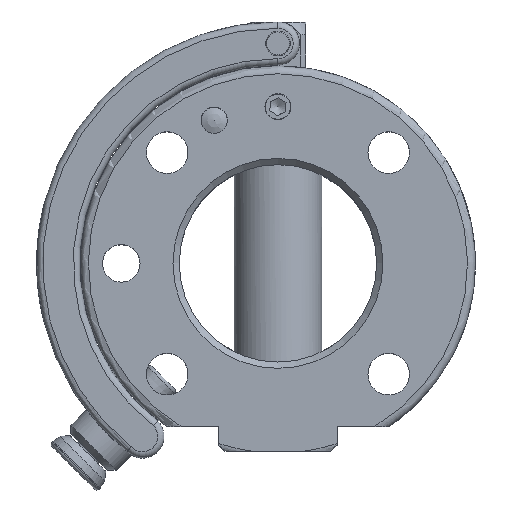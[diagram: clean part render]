
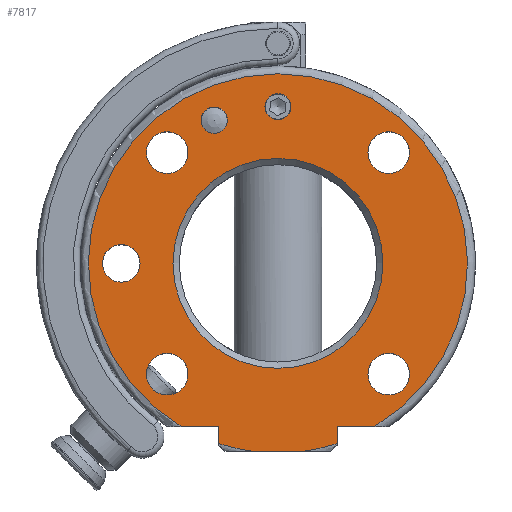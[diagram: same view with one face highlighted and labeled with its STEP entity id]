
A CAD part, top view. The second image highlights one B-rep face of the part: STEP entity #7817.
In plain terms, the highlighted planar face has unit normal (0, 0, 1).
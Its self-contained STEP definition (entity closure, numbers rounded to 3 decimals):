
#676=FACE_BOUND('',#1467,.T.);
#677=FACE_BOUND('',#1468,.T.);
#678=FACE_BOUND('',#1469,.T.);
#679=FACE_BOUND('',#1470,.T.);
#680=FACE_BOUND('',#1471,.T.);
#681=FACE_BOUND('',#1472,.T.);
#682=FACE_BOUND('',#1473,.T.);
#683=FACE_BOUND('',#1474,.T.);
#776=PLANE('',#8393);
#1003=FACE_OUTER_BOUND('',#1466,.T.);
#1466=EDGE_LOOP('',(#5597,#5598,#5599,#5600,#5601,#5602,#5603,#5604));
#1467=EDGE_LOOP('',(#5605));
#1468=EDGE_LOOP('',(#5606));
#1469=EDGE_LOOP('',(#5607));
#1470=EDGE_LOOP('',(#5608));
#1471=EDGE_LOOP('',(#5609));
#1472=EDGE_LOOP('',(#5610));
#1473=EDGE_LOOP('',(#5611));
#1474=EDGE_LOOP('',(#5612));
#1966=LINE('',#12044,#2483);
#1967=LINE('',#12048,#2484);
#1968=LINE('',#12050,#2485);
#1969=LINE('',#12054,#2486);
#1970=LINE('',#12055,#2487);
#2483=VECTOR('',#9268,10.);
#2484=VECTOR('',#9271,10.);
#2485=VECTOR('',#9272,10.);
#2486=VECTOR('',#9275,10.);
#2487=VECTOR('',#9276,10.);
#3003=CIRCLE('',#8385,30.25);
#3004=CIRCLE('',#8387,16.75);
#3008=CIRCLE('',#8394,30.25);
#3009=CIRCLE('',#8395,30.25);
#3010=CIRCLE('',#8396,2.1);
#3011=CIRCLE('',#8397,3.);
#3012=CIRCLE('',#8398,3.324);
#3013=CIRCLE('',#8399,3.324);
#3014=CIRCLE('',#8400,3.324);
#3015=CIRCLE('',#8401,3.324);
#3016=CIRCLE('',#8402,2.067);
#3323=VERTEX_POINT('',#11930);
#3324=VERTEX_POINT('',#11939);
#3326=VERTEX_POINT('',#11953);
#3334=VERTEX_POINT('',#12043);
#3335=VERTEX_POINT('',#12045);
#3336=VERTEX_POINT('',#12047);
#3337=VERTEX_POINT('',#12049);
#3338=VERTEX_POINT('',#12051);
#3339=VERTEX_POINT('',#12053);
#3340=VERTEX_POINT('',#12056);
#3341=VERTEX_POINT('',#12058);
#3342=VERTEX_POINT('',#12060);
#3343=VERTEX_POINT('',#12062);
#3344=VERTEX_POINT('',#12064);
#3345=VERTEX_POINT('',#12066);
#3346=VERTEX_POINT('',#12068);
#4182=EDGE_CURVE('',#3323,#3324,#3003,.T.);
#4185=EDGE_CURVE('',#3326,#3326,#3004,.T.);
#4196=EDGE_CURVE('',#3323,#3334,#1966,.T.);
#4197=EDGE_CURVE('',#3335,#3334,#3008,.T.);
#4198=EDGE_CURVE('',#3335,#3336,#1967,.T.);
#4199=EDGE_CURVE('',#3336,#3337,#1968,.T.);
#4200=EDGE_CURVE('',#3338,#3337,#3009,.T.);
#4201=EDGE_CURVE('',#3338,#3339,#1969,.T.);
#4202=EDGE_CURVE('',#3339,#3324,#1970,.T.);
#4203=EDGE_CURVE('',#3340,#3340,#3010,.T.);
#4204=EDGE_CURVE('',#3341,#3341,#3011,.T.);
#4205=EDGE_CURVE('',#3342,#3342,#3012,.T.);
#4206=EDGE_CURVE('',#3343,#3343,#3013,.T.);
#4207=EDGE_CURVE('',#3344,#3344,#3014,.T.);
#4208=EDGE_CURVE('',#3345,#3345,#3015,.T.);
#4209=EDGE_CURVE('',#3346,#3346,#3016,.T.);
#5597=ORIENTED_EDGE('',*,*,#4196,.T.);
#5598=ORIENTED_EDGE('',*,*,#4197,.F.);
#5599=ORIENTED_EDGE('',*,*,#4198,.T.);
#5600=ORIENTED_EDGE('',*,*,#4199,.T.);
#5601=ORIENTED_EDGE('',*,*,#4200,.F.);
#5602=ORIENTED_EDGE('',*,*,#4201,.T.);
#5603=ORIENTED_EDGE('',*,*,#4202,.T.);
#5604=ORIENTED_EDGE('',*,*,#4182,.F.);
#5605=ORIENTED_EDGE('',*,*,#4203,.T.);
#5606=ORIENTED_EDGE('',*,*,#4204,.T.);
#5607=ORIENTED_EDGE('',*,*,#4205,.T.);
#5608=ORIENTED_EDGE('',*,*,#4206,.T.);
#5609=ORIENTED_EDGE('',*,*,#4207,.T.);
#5610=ORIENTED_EDGE('',*,*,#4208,.T.);
#5611=ORIENTED_EDGE('',*,*,#4185,.F.);
#5612=ORIENTED_EDGE('',*,*,#4209,.T.);
#7817=ADVANCED_FACE('',(#1003,#676,#677,#678,#679,#680,#681,#682,#683),
#776,.T.);
#8385=AXIS2_PLACEMENT_3D('',#11940,#9247,#9248);
#8387=AXIS2_PLACEMENT_3D('',#11954,#9251,#9252);
#8393=AXIS2_PLACEMENT_3D('',#12042,#9266,#9267);
#8394=AXIS2_PLACEMENT_3D('',#12046,#9269,#9270);
#8395=AXIS2_PLACEMENT_3D('',#12052,#9273,#9274);
#8396=AXIS2_PLACEMENT_3D('',#12057,#9277,#9278);
#8397=AXIS2_PLACEMENT_3D('',#12059,#9279,#9280);
#8398=AXIS2_PLACEMENT_3D('',#12061,#9281,#9282);
#8399=AXIS2_PLACEMENT_3D('',#12063,#9283,#9284);
#8400=AXIS2_PLACEMENT_3D('',#12065,#9285,#9286);
#8401=AXIS2_PLACEMENT_3D('',#12067,#9287,#9288);
#8402=AXIS2_PLACEMENT_3D('',#12069,#9289,#9290);
#9247=DIRECTION('center_axis',(0.,0.,-1.));
#9248=DIRECTION('ref_axis',(-1.,0.,0.));
#9251=DIRECTION('center_axis',(0.,0.,1.));
#9252=DIRECTION('ref_axis',(-1.,0.,0.));
#9266=DIRECTION('center_axis',(0.,0.,1.));
#9267=DIRECTION('ref_axis',(1.,0.,0.));
#9268=DIRECTION('',(1.,0.,0.));
#9269=DIRECTION('center_axis',(0.,0.,-1.));
#9270=DIRECTION('ref_axis',(-1.,0.,0.));
#9271=DIRECTION('',(0.,1.,0.));
#9272=DIRECTION('',(1.,0.,0.));
#9273=DIRECTION('center_axis',(0.,0.,-1.));
#9274=DIRECTION('ref_axis',(-1.,0.,0.));
#9275=DIRECTION('',(1.,0.,0.));
#9276=DIRECTION('',(0.,-1.,0.));
#9277=DIRECTION('center_axis',(0.,0.,-1.));
#9278=DIRECTION('ref_axis',(-1.,0.,0.));
#9279=DIRECTION('center_axis',(0.,0.,-1.));
#9280=DIRECTION('ref_axis',(1.,0.,0.));
#9281=DIRECTION('center_axis',(0.,0.,-1.));
#9282=DIRECTION('ref_axis',(-1.,0.,0.));
#9283=DIRECTION('center_axis',(0.,0.,-1.));
#9284=DIRECTION('ref_axis',(-1.,0.,0.));
#9285=DIRECTION('center_axis',(0.,0.,-1.));
#9286=DIRECTION('ref_axis',(-1.,0.,0.));
#9287=DIRECTION('center_axis',(0.,0.,-1.));
#9288=DIRECTION('ref_axis',(-1.,0.,0.));
#9289=DIRECTION('center_axis',(0.,0.,-1.));
#9290=DIRECTION('ref_axis',(1.,0.,0.));
#11930=CARTESIAN_POINT('',(-4.25,-29.95,0.));
#11939=CARTESIAN_POINT('',(-9.45,-28.736,0.));
#11940=CARTESIAN_POINT('Origin',(0.,0.,0.));
#11953=CARTESIAN_POINT('',(16.75,0.,0.));
#11954=CARTESIAN_POINT('Origin',(0.,0.,0.));
#12042=CARTESIAN_POINT('Origin',(0.,0.,
0.));
#12043=CARTESIAN_POINT('',(4.25,-29.95,0.));
#12044=CARTESIAN_POINT('',(-4.225,-29.95,0.));
#12045=CARTESIAN_POINT('',(9.45,-28.736,0.));
#12046=CARTESIAN_POINT('Origin',(0.,0.,0.));
#12047=CARTESIAN_POINT('',(9.45,-26.,0.));
#12048=CARTESIAN_POINT('',(9.45,-14.475,0.));
#12049=CARTESIAN_POINT('',(15.462,-26.,0.));
#12050=CARTESIAN_POINT('',(4.725,-26.,0.));
#12051=CARTESIAN_POINT('',(-15.462,-26.,0.));
#12052=CARTESIAN_POINT('Origin',(0.,0.,0.));
#12053=CARTESIAN_POINT('',(-9.45,-26.,0.));
#12054=CARTESIAN_POINT('',(-8.892,-26.,0.));
#12055=CARTESIAN_POINT('',(-9.45,-13.,0.));
#12056=CARTESIAN_POINT('',(-8.068,22.839,0.));
#12057=CARTESIAN_POINT('Origin',(-10.168,22.839,0.));
#12058=CARTESIAN_POINT('',(-28.,0.,0.));
#12059=CARTESIAN_POINT('Origin',(-25.,0.,0.));
#12060=CARTESIAN_POINT('',(21.001,17.678,0.));
#12061=CARTESIAN_POINT('Origin',(17.678,17.678,0.));
#12062=CARTESIAN_POINT('',(-14.354,-17.678,0.));
#12063=CARTESIAN_POINT('Origin',(-17.678,-17.678,0.));
#12064=CARTESIAN_POINT('',(-14.354,17.678,0.));
#12065=CARTESIAN_POINT('Origin',(-17.678,17.678,0.));
#12066=CARTESIAN_POINT('',(21.001,-17.678,0.));
#12067=CARTESIAN_POINT('Origin',(17.678,-17.678,0.));
#12068=CARTESIAN_POINT('',(-2.067,25.,0.));
#12069=CARTESIAN_POINT('Origin',(0.,25.,0.));
